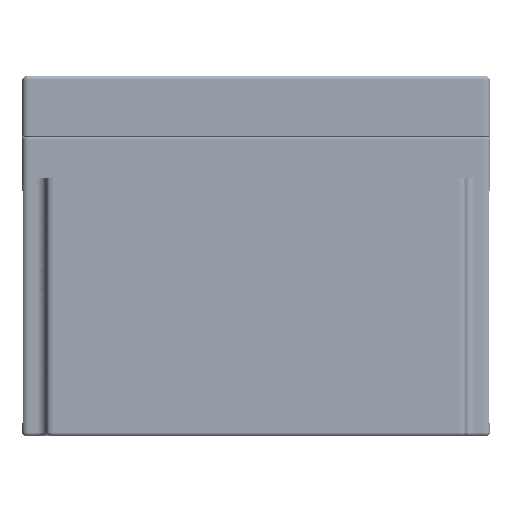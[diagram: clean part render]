
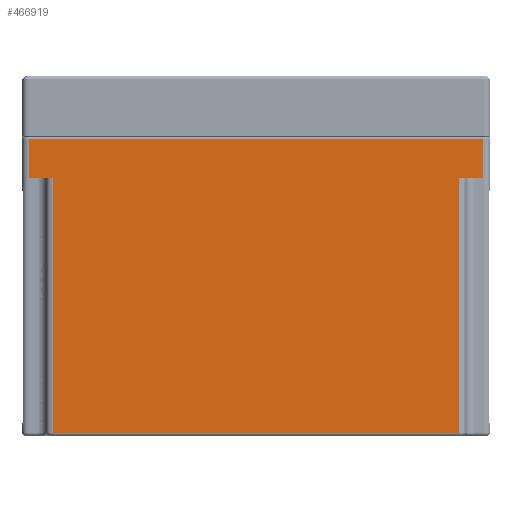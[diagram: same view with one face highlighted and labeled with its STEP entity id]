
A CAD part, front view. The second image highlights one B-rep face of the part: STEP entity #466919.
In plain terms, the highlighted planar face has unit normal (0, -1, 0).
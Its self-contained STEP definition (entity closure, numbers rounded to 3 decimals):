
#13441 = CARTESIAN_POINT ( 'NONE',  ( 0., -31.75, 77.7 ) ) ;
#14401 = ORIENTED_EDGE ( 'NONE', *, *, #463887, .T. ) ;
#22115 = ORIENTED_EDGE ( 'NONE', *, *, #368749, .T. ) ;
#35687 = VERTEX_POINT ( 'NONE', #116527 ) ;
#37358 = LINE ( 'NONE', #298335, #519496 ) ;
#50017 = EDGE_CURVE ( 'NONE', #404737, #35687, #37358, .T. ) ;
#80009 = EDGE_CURVE ( 'NONE', #404737, #387433, #354359, .T. ) ;
#80511 = ORIENTED_EDGE ( 'NONE', *, *, #331681, .T. ) ;
#93061 = CARTESIAN_POINT ( 'NONE',  ( -68.5, -31.75, 77.7 ) ) ;
#100109 = AXIS2_PLACEMENT_3D ( 'NONE', #264073, #558263, #204677 ) ;
#103216 = DIRECTION ( 'NONE',  ( -1., 0., 0. ) ) ;
#108594 = VERTEX_POINT ( 'NONE', #283034 ) ;
#116527 = CARTESIAN_POINT ( 'NONE',  ( -61.25, -31.75, 1. ) ) ;
#126244 = LINE ( 'NONE', #427065, #641568 ) ;
#135039 = CARTESIAN_POINT ( 'NONE',  ( -68.5, -31.75, 89.5 ) ) ;
#143335 = CARTESIAN_POINT ( 'NONE',  ( 68.5, -31.75, 77.7 ) ) ;
#149611 = LINE ( 'NONE', #506415, #331917 ) ;
#151895 = FACE_OUTER_BOUND ( 'NONE', #482696, .T. ) ;
#167216 = DIRECTION ( 'NONE',  ( 0., 0., 1. ) ) ;
#204677 = DIRECTION ( 'NONE',  ( 0., 0., 1. ) ) ;
#216789 = LINE ( 'NONE', #418371, #339935 ) ;
#238512 = DIRECTION ( 'NONE',  ( 0., 0., -1. ) ) ;
#238865 = ORIENTED_EDGE ( 'NONE', *, *, #390208, .T. ) ;
#239031 = DIRECTION ( 'NONE',  ( 0., 0., -1. ) ) ;
#258762 = VERTEX_POINT ( 'NONE', #435550 ) ;
#259098 = ORIENTED_EDGE ( 'NONE', *, *, #50017, .T. ) ;
#260794 = PLANE ( 'NONE',  #100109 ) ;
#264073 = CARTESIAN_POINT ( 'NONE',  ( -70.5, -31.75, 90. ) ) ;
#270759 = ORIENTED_EDGE ( 'NONE', *, *, #80009, .F. ) ;
#283034 = CARTESIAN_POINT ( 'NONE',  ( 61.25, -31.75, 1. ) ) ;
#298335 = CARTESIAN_POINT ( 'NONE',  ( -61.25, -31.75, 90. ) ) ;
#313478 = CARTESIAN_POINT ( 'NONE',  ( 61.25, -31.75, 77.7 ) ) ;
#329488 = CARTESIAN_POINT ( 'NONE',  ( 61.25, -31.75, 77.7 ) ) ;
#331681 = EDGE_CURVE ( 'NONE', #108594, #480979, #643352, .T. ) ;
#331917 = VECTOR ( 'NONE', #103216, 1000. ) ;
#339935 = VECTOR ( 'NONE', #167216, 1000. ) ;
#341144 = EDGE_CURVE ( 'NONE', #35687, #108594, #604731, .T. ) ;
#350864 = CARTESIAN_POINT ( 'NONE',  ( -61.25, -31.75, 77.7 ) ) ;
#354359 = LINE ( 'NONE', #648713, #423879 ) ;
#367088 = VECTOR ( 'NONE', #409594, 1000. ) ;
#368749 = EDGE_CURVE ( 'NONE', #578925, #387433, #126244, .T. ) ;
#369694 = VECTOR ( 'NONE', #540873, 1000. ) ;
#370383 = DIRECTION ( 'NONE',  ( 1., 0., 0. ) ) ;
#385871 = VERTEX_POINT ( 'NONE', #143335 ) ;
#387433 = VERTEX_POINT ( 'NONE', #93061 ) ;
#390208 = EDGE_CURVE ( 'NONE', #258762, #578925, #149611, .T. ) ;
#403133 = CARTESIAN_POINT ( 'NONE',  ( -70.5, -31.75, 1. ) ) ;
#404737 = VERTEX_POINT ( 'NONE', #350864 ) ;
#409594 = DIRECTION ( 'NONE',  ( 1., 0., 0. ) ) ;
#410491 = DIRECTION ( 'NONE',  ( -1., 0., 0. ) ) ;
#418371 = CARTESIAN_POINT ( 'NONE',  ( 68.5, -31.75, 90. ) ) ;
#418493 = ORIENTED_EDGE ( 'NONE', *, *, #564569, .T. ) ;
#423879 = VECTOR ( 'NONE', #410491, 1000. ) ;
#427065 = CARTESIAN_POINT ( 'NONE',  ( -68.5, -31.75, 90. ) ) ;
#435550 = CARTESIAN_POINT ( 'NONE',  ( 68.5, -31.75, 89.5 ) ) ;
#463887 = EDGE_CURVE ( 'NONE', #480979, #385871, #466242, .T. ) ;
#466242 = LINE ( 'NONE', #13441, #635255 ) ;
#466919 = ADVANCED_FACE ( 'NONE', ( #151895 ), #260794, .F. ) ;
#480979 = VERTEX_POINT ( 'NONE', #313478 ) ;
#482696 = EDGE_LOOP ( 'NONE', ( #259098, #587858, #80511, #14401, #418493, #238865, #22115, #270759 ) ) ;
#506415 = CARTESIAN_POINT ( 'NONE',  ( -68.5, -31.75, 89.5 ) ) ;
#519496 = VECTOR ( 'NONE', #239031, 1000. ) ;
#540873 = DIRECTION ( 'NONE',  ( 0., 0., 1. ) ) ;
#558263 = DIRECTION ( 'NONE',  ( 0., 1., 0. ) ) ;
#564569 = EDGE_CURVE ( 'NONE', #385871, #258762, #216789, .T. ) ;
#578925 = VERTEX_POINT ( 'NONE', #135039 ) ;
#587858 = ORIENTED_EDGE ( 'NONE', *, *, #341144, .T. ) ;
#604731 = LINE ( 'NONE', #403133, #367088 ) ;
#635255 = VECTOR ( 'NONE', #370383, 1000. ) ;
#641568 = VECTOR ( 'NONE', #238512, 1000. ) ;
#643352 = LINE ( 'NONE', #329488, #369694 ) ;
#648713 = CARTESIAN_POINT ( 'NONE',  ( 0., -31.75, 77.7 ) ) ;
